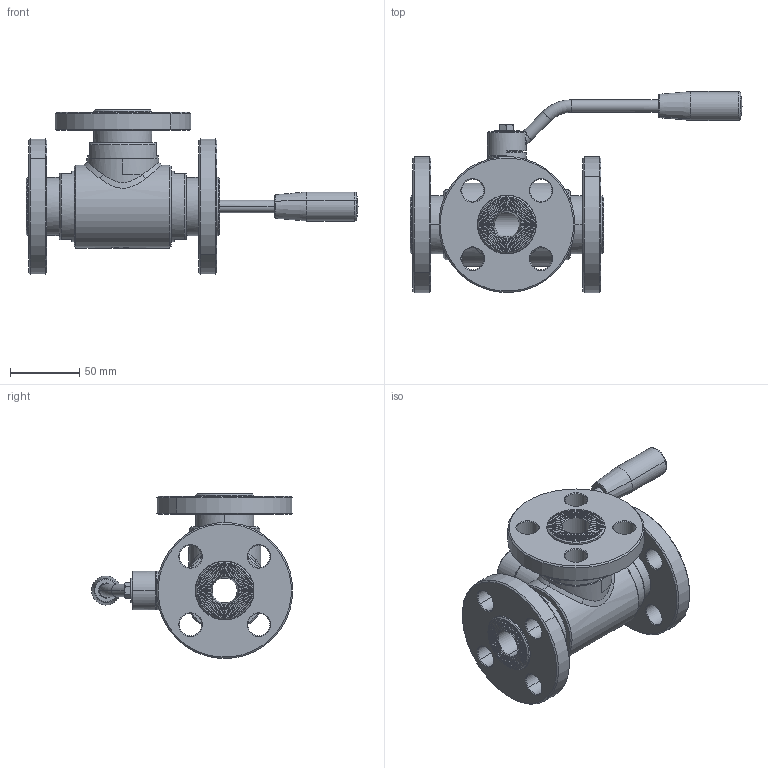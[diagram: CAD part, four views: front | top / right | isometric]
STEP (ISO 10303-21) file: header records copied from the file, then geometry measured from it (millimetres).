
FILE_DESCRIPTION((''),'2;1');
FILE_NAME('XXX_ASM','2026-06-25T09:04:06',('tecnico2'),('CDM Tecnoconsulting'),'CREO PARAMETRIC BY PTC INC, 2024063','CREO PARAMETRIC BY PTC INC, 2024063','');
FILE_SCHEMA(('CONFIG_CONTROL_DESIGN','SHAPE_APPEARANCE_LAYERS_GROUPS'));
Products named in the file (4): 30015562010_SW0001; 92530076200; 93010006260; XXX_ASM
Assembly tree (3 placements, depth 2):
  XXX_ASM
    30015562010_SW0001
    92530076200
    93010006260
Bounding box: 240 x 145.29 x 119.01 mm (x, y, z)
Volume: 557831.4 mm3; surface area: 129308 mm2
Topology: 3 solids, 3 shells, 1093 faces, 2808 edges, 1785 vertices
Faces by surface type: plane 433, cylinder 215, cone 208, extrusion 111, torus 66, bspline 56, sphere 4
Entity records: 52271 total; most frequent: CARTESIAN_POINT 18389, ORIENTED_EDGE 5572, DIRECTION 5041, EDGE_CURVE 2786, PRESENTATION_STYLE_ASSIGNMENT 2528, STYLED_ITEM 2479, CURVE_STYLE 2478, VERTEX_POINT 1785
